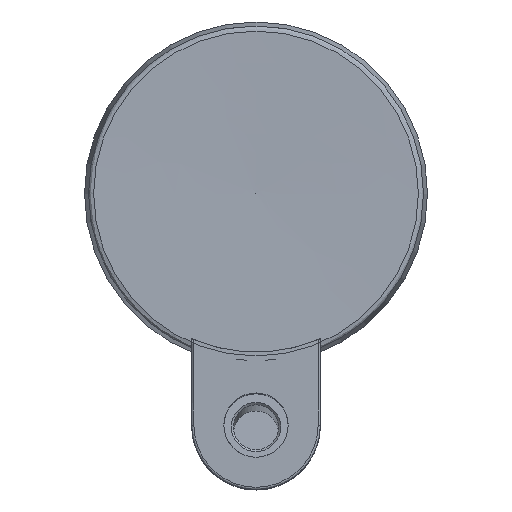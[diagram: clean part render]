
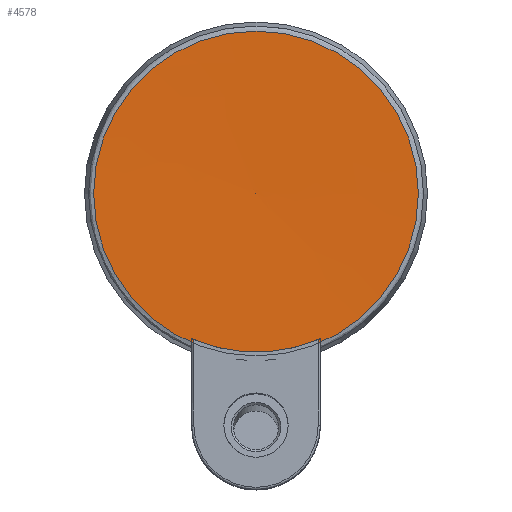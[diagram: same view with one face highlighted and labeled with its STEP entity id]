
A CAD part, front view. The second image highlights one B-rep face of the part: STEP entity #4578.
In plain terms, the highlighted free-form (B-spline) face has degree [2, 1] with [9, 2] control points.
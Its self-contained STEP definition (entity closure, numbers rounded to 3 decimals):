
#4510=CARTESIAN_POINT('',(1313.695,1106.972,-99.771));
#4511=VERTEX_POINT('',#4510);
#4519=CARTESIAN_POINT('',(1313.695,1106.972,-24.03));
#4520=VERTEX_POINT('',#4519);
#4521=CARTESIAN_POINT('',(1313.695,1106.972,-61.9));
#4522=DIRECTION('',(0.,-1.0,0.));
#4523=DIRECTION('',(0.,0.,-1.0));
#4524=AXIS2_PLACEMENT_3D('',#4521,#4522,#4523);
#4525=CIRCLE('',#4524,37.87);
#4526=EDGE_CURVE('',#4520,#4511,#4525,.T.);
#4528=CARTESIAN_POINT('',(1313.695,1106.972,-61.9));
#4529=DIRECTION('',(0.,-1.0,0.));
#4530=DIRECTION('',(0.,0.,-1.0));
#4531=AXIS2_PLACEMENT_3D('',#4528,#4529,#4530);
#4532=CIRCLE('',#4531,37.87);
#4533=EDGE_CURVE('',#4511,#4520,#4532,.T.);
#4539=CARTESIAN_POINT('',(1313.695,1106.972,-99.771));
#4540=CARTESIAN_POINT('',(1351.566,1106.972,-99.771));
#4541=CARTESIAN_POINT('',(1351.566,1106.972,-61.9));
#4542=CARTESIAN_POINT('',(1351.566,1106.972,-24.03));
#4543=CARTESIAN_POINT('',(1313.695,1106.972,-24.03));
#4544=CARTESIAN_POINT('',(1275.825,1106.972,-24.03));
#4545=CARTESIAN_POINT('',(1275.825,1106.972,-61.9));
#4546=CARTESIAN_POINT('',(1275.825,1106.972,-99.771));
#4547=CARTESIAN_POINT('',(1313.695,1106.972,-99.771));
#4548=CARTESIAN_POINT('',(1313.695,1107.472,-61.9));
#4549=CARTESIAN_POINT('',(1313.695,1107.472,-61.9));
#4550=CARTESIAN_POINT('',(1313.695,1107.472,-61.9));
#4551=CARTESIAN_POINT('',(1313.695,1107.472,-61.9));
#4552=CARTESIAN_POINT('',(1313.695,1107.472,-61.9));
#4553=CARTESIAN_POINT('',(1313.695,1107.472,-61.9));
#4554=CARTESIAN_POINT('',(1313.695,1107.472,-61.9));
#4555=CARTESIAN_POINT('',(1313.695,1107.472,-61.9));
#4556=CARTESIAN_POINT('',(1313.695,1107.472,-61.9));
#4564=(BOUNDED_SURFACE()B_SPLINE_SURFACE(2,1,((#4539,#4548),(#4540,#4549),(#4541,#4550),(#4542,#4551),(#4543,#4552),(#4544,#4553),(#4545,#4554),(#4546,#4555),(#4547,#4556)),.UNSPECIFIED.,.T.,.F.,.U.)B_SPLINE_SURFACE_WITH_KNOTS((3,2,2,2,3),(2,2),(0.0,0.25,0.5,0.75,1.0),(0.,37.874),.UNSPECIFIED.)GEOMETRIC_REPRESENTATION_ITEM()RATIONAL_B_SPLINE_SURFACE(((1.0,1.0),(0.707,0.707),(1.0,1.0),(0.707,0.707),(1.0,1.0),(0.707,0.707),(1.0,1.0),(0.707,0.707),(1.0,1.0)))REPRESENTATION_ITEM('')SURFACE());
#4565=ORIENTED_EDGE('',*,*,#4533,.T.);
#4566=ORIENTED_EDGE('',*,*,#4526,.T.);
#4567=CARTESIAN_POINT('',(1313.695,1107.472,-61.9));
#4568=VERTEX_POINT('',#4567);
#4569=CARTESIAN_POINT('',(1313.695,1106.972,-99.771));
#4570=DIRECTION('',(0.,0.013,1.));
#4571=VECTOR('',#4570,37.874);
#4572=LINE('',#4569,#4571);
#4573=EDGE_CURVE('',#4511,#4568,#4572,.T.);
#4574=ORIENTED_EDGE('',*,*,#4573,.T.);
#4575=ORIENTED_EDGE('',*,*,#4573,.F.);
#4576=EDGE_LOOP('',(#4565,#4566,#4574,#4575));
#4577=FACE_OUTER_BOUND('',#4576,.T.);
#4578=ADVANCED_FACE('',(#4577),#4564,.T.);
